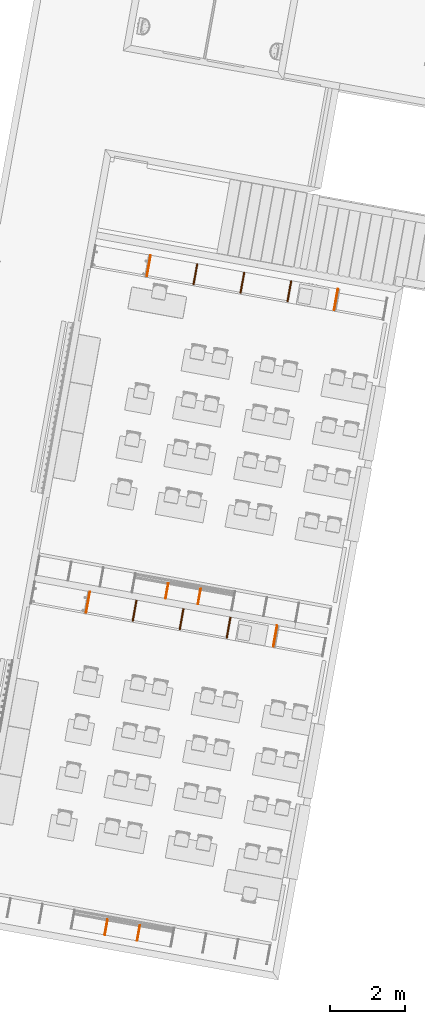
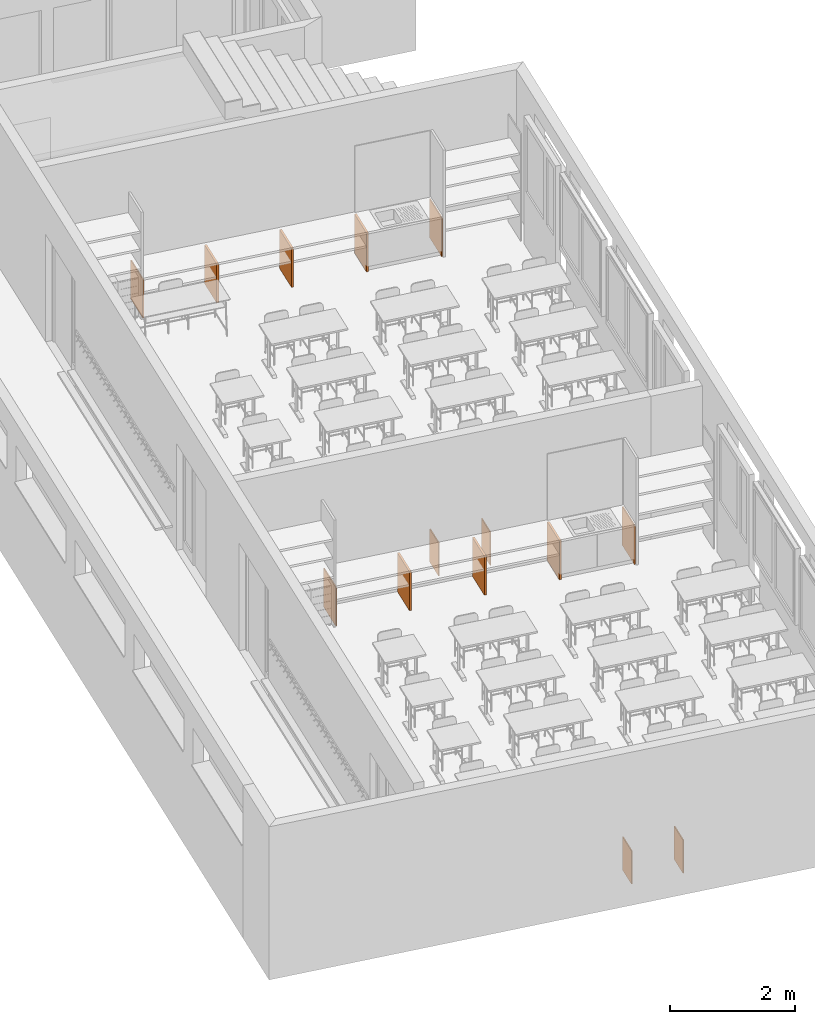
# One storey, part 51 of 79: 14 proxies.
"""IFC2X3 building model written with IfcOpenShell, lengths in metres."""

from ifc_helpers import new_model, entity, si_unit, converted_unit, derived_unit, money_unit, direction, frame, origin_with_axes, place, context, subcontext, project, spatial, polyline, outline, extrude, material, type_object, element, save


model = new_model("IFC2X3")

# Units and contexts
model_context = context("Model", 3, precision=1e-05, world=origin_with_axes(), true_north=direction((0.0, 1.0)))
body_context = subcontext(model_context, "Body", "Model", "MODEL_VIEW")
ifc_project = project(units=[si_unit("LENGTHUNIT", "METRE"), si_unit("AREAUNIT", "SQUARE_METRE"), si_unit("VOLUMEUNIT", "CUBIC_METRE"), converted_unit("PLANEANGLEUNIT", "DEGREE", entity("IfcPlaneAngleMeasure", 0.0174532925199), si_unit("PLANEANGLEUNIT", "RADIAN"), dimensions=[0, 0, 0, 0, 0, 0, 0]), money_unit("CHF"), converted_unit("TIMEUNIT", "Year", entity("IfcTimeMeasure", 31556926.0), si_unit("TIMEUNIT", "SECOND"), dimensions=[0, 0, 1, 0, 0, 0, 0]), si_unit("MASSUNIT", "GRAM", prefix="KILO"), si_unit("THERMODYNAMICTEMPERATUREUNIT", "DEGREE_CELSIUS"), si_unit("LUMINOUSINTENSITYUNIT", "LUMEN"), si_unit("ENERGYUNIT", "JOULE", prefix="MEGA"), derived_unit("THERMALCONDUCTANCEUNIT", [(si_unit("POWERUNIT", "WATT"), 1), (si_unit("LENGTHUNIT", "METRE"), -1), (si_unit("THERMODYNAMICTEMPERATUREUNIT", "KELVIN"), -1)]), derived_unit("SPECIFICHEATCAPACITYUNIT", [(si_unit("ENERGYUNIT", "JOULE"), 1), (si_unit("MASSUNIT", "GRAM", prefix="KILO"), -1), (si_unit("THERMODYNAMICTEMPERATUREUNIT", "KELVIN"), -1)]), derived_unit("MASSDENSITYUNIT", [(si_unit("MASSUNIT", "GRAM", prefix="KILO"), 1), (si_unit("VOLUMEUNIT", "CUBIC_METRE"), -1)])], contexts=[model_context])

# Site, building, storey
site_placement = place(None, frame((0.0, 0.0, 0.0), z_axis=(0.0, 0.0, 1.0), x_axis=(-0.177771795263, -0.984071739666, 0.0)))
site = spatial("IfcSite", under=ifc_project, at=site_placement, Name="Site", CompositionType="ELEMENT")
building_placement = place(site_placement, origin_with_axes())
building = spatial("IfcBuilding", under=site, at=building_placement, Name="Bâtiment", CompositionType="ELEMENT")
storey_placement = place(building_placement, origin_with_axes())
storey = spatial("IfcBuildingStorey", under=building, at=storey_placement, Name="RDC", CompositionType="ELEMENT", Elevation=0.0)

# Proxies
ifc_material = material(Name="_panneau mélaminé")
building_element_proxy_type_1 = type_object("IfcBuildingElementProxyType", Name="_panneau mélaminé 38", PredefinedType="NOTDEFINED")
for number, where, z_axis, x_axis, name in (
    (1, (156.26984114, -153.660193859, 0.0), (0.0, 0.0, 1.0), (-1.0, 0.0, 0.0), "raidiseur-fd-classe double"),
    (2, (156.26984114, -152.382193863, 0.0), (0.0, 0.0, 1.0), (-1.0, 0.0, 0.0), "raidiseur-fd-classe double"),
):
    element("IfcBuildingElementProxy", number, at=place(storey_placement, frame(where, z_axis=z_axis, x_axis=x_axis)), inside=storey, type_object=building_element_proxy_type_1, material=ifc_material, Name=name, context=body_context, shape_type="SweptSolid", body=[
        extrude(outline(polyline([(0.0, -0.019), (0.57, -0.019), (0.57, 0.019), (0.0, 0.019), (0.0, -0.019)])), origin_with_axes(), (0.0, 0.0, 1.0), 0.76),
    ])
proxy_1_placement = place(storey_placement, frame((156.269841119, -151.104151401, 0.0), z_axis=(0.0, 0.0, 1.0), x_axis=(-1.0, 0.0, 0.0)))
element("IfcBuildingElementProxy", 3, at=proxy_1_placement, inside=storey, type_object=building_element_proxy_type_1, material=ifc_material, Name="raidiseur-fd-classe double", context=body_context, shape_type="SweptSolid", body=[
    extrude(outline(polyline([(0.0, -0.019), (0.569999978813, -0.019), (0.569999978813, 0.019), (0.0, 0.019), (0.0, -0.019)])), origin_with_axes(), (0.0, 0.0, 1.0), 0.76),
])
proxy_2_placement = place(storey_placement, frame((147.119841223, -153.660193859, 0.0), z_axis=(0.0, 0.0, 1.0), x_axis=(-1.0, 0.0, 0.0)))
element("IfcBuildingElementProxy", 4, at=proxy_2_placement, inside=storey, type_object=building_element_proxy_type_1, material=ifc_material, Name="raidiseur-fd-classe double", context=body_context, shape_type="SweptSolid", body=[
    extrude(outline(polyline([(0.0, -0.019), (0.57, -0.019), (0.57, 0.019), (0.0, 0.019), (0.0, -0.019)])), origin_with_axes(), (0.0, 0.0, 1.0), 0.76),
])
proxy_3_placement = place(storey_placement, frame((147.119841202, -151.104151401, 0.0), z_axis=(0.0, 0.0, 1.0), x_axis=(-1.0, 0.0, 0.0)))
element("IfcBuildingElementProxy", 5, at=proxy_3_placement, inside=storey, type_object=building_element_proxy_type_1, material=ifc_material, Name="raidiseur-fd-classe double", context=body_context, shape_type="SweptSolid", body=[
    extrude(outline(polyline([(0.0, -0.019), (0.569999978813, -0.019), (0.569999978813, 0.019), (0.0, 0.019), (0.0, -0.019)])), origin_with_axes(), (0.0, 0.0, 1.0), 0.76),
])
proxy_4_placement = place(storey_placement, frame((147.119841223, -152.382193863, 0.0), z_axis=(0.0, 0.0, 1.0), x_axis=(-1.0, 0.0, 0.0)))
element("IfcBuildingElementProxy", 6, at=proxy_4_placement, inside=storey, type_object=building_element_proxy_type_1, material=ifc_material, Name="raidiseur-fd-classe double", context=body_context, shape_type="SweptSolid", body=[
    extrude(outline(polyline([(0.0, -0.019), (0.57, -0.019), (0.57, 0.019), (0.0, 0.019), (0.0, -0.019)])), origin_with_axes(), (0.0, 0.0, 1.0), 0.76),
])
building_element_proxy_type_2 = type_object("IfcBuildingElementProxyType", Name="_panneau mélaminé 19", PredefinedType="NOTDEFINED")
proxy_5_placement = place(storey_placement, frame((156.26984114, -149.845151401, 0.0), z_axis=(0.0, 0.0, 1.0), x_axis=(-1.0, 0.0, 0.0)))
element("IfcBuildingElementProxy", 7, at=proxy_5_placement, inside=storey, type_object=building_element_proxy_type_2, material=ifc_material, Name="raidiseur-fd-classe simple", context=body_context, shape_type="SweptSolid", body=[
    extrude(outline(polyline([(0.0, -0.019), (0.57, -0.019), (0.57, 0.0), (0.0, 0.0), (0.0, -0.019)])), origin_with_axes(), (0.0, 0.0, 1.0), 0.76),
])
for number, where, z_axis, x_axis, name in (
    (8, (155.099841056, -152.023051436, 0.0), (0.0, 0.0, 1.0), (1.0, 0.0, 0.0), "raidiseur-sous-tableau"),
    (9, (155.099841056, -152.903051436, 0.0), (0.0, 0.0, 1.0), (1.0, 0.0, 0.0), "raidiseur-sous-tableau"),
):
    element("IfcBuildingElementProxy", number, at=place(storey_placement, frame(where, z_axis=z_axis, x_axis=x_axis)), inside=storey, type_object=building_element_proxy_type_2, material=ifc_material, Name=name, context=body_context, shape_type="SweptSolid", body=[
        extrude(outline(polyline([(0.0, -0.0095), (0.420000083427, -0.0095), (0.420000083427, 0.0095), (0.0, 0.0095), (0.0, -0.0095)])), origin_with_axes(), (0.0, 0.0, 1.0), 0.65),
    ])
for number, where, z_axis, x_axis, name in (
    (10, (164.249841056, -152.903051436, 0.0), (0.0, 0.0, 1.0), (1.0, 0.0, 0.0), "raidiseur-sous-tableau"),
    (11, (164.249841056, -152.023051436, 0.0), (0.0, 0.0, 1.0), (1.0, 0.0, 0.0), "raidiseur-sous-tableau"),
):
    element("IfcBuildingElementProxy", number, at=place(storey_placement, frame(where, z_axis=z_axis, x_axis=x_axis)), inside=storey, type_object=building_element_proxy_type_2, material=ifc_material, Name=name, context=body_context, shape_type="SweptSolid", body=[
        extrude(outline(polyline([(0.0, -0.0095), (0.42, -0.0095), (0.42, 0.0095), (0.0, 0.0095), (0.0, -0.0095)])), origin_with_axes(), (0.0, 0.0, 1.0), 0.65),
    ])
proxy_6_placement = place(storey_placement, frame((156.26984114, -154.919236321, 0.0), z_axis=(0.0, 0.0, 1.0), x_axis=(-1.0, 0.0, 0.0)))
element("IfcBuildingElementProxy", 12, at=proxy_6_placement, inside=storey, type_object=building_element_proxy_type_2, material=ifc_material, Name="raidiseur-fd-classe simple", context=body_context, shape_type="SweptSolid", body=[
    extrude(outline(polyline([(0.0, 0.0), (0.570000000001, 0.0), (0.570000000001, 0.019), (0.0, 0.019), (0.0, 0.0)])), origin_with_axes(), (0.0, 0.0, 1.0), 0.76),
])
proxy_7_placement = place(storey_placement, frame((147.119841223, -149.845151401, 0.0), z_axis=(0.0, 0.0, 1.0), x_axis=(-1.0, 0.0, 0.0)))
element("IfcBuildingElementProxy", 13, at=proxy_7_placement, inside=storey, type_object=building_element_proxy_type_2, material=ifc_material, Name="raidiseur-fd-classe simple", context=body_context, shape_type="SweptSolid", body=[
    extrude(outline(polyline([(0.0, -0.019), (0.57, -0.019), (0.57, 0.0), (0.0, 0.0), (0.0, -0.019)])), origin_with_axes(), (0.0, 0.0, 1.0), 0.76),
])
proxy_8_placement = place(storey_placement, frame((147.119841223, -154.919236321, 0.0), z_axis=(0.0, 0.0, 1.0), x_axis=(-1.0, 0.0, 0.0)))
element("IfcBuildingElementProxy", 14, at=proxy_8_placement, inside=storey, type_object=building_element_proxy_type_2, material=ifc_material, Name="raidiseur-fd-classe simple", context=body_context, shape_type="SweptSolid", body=[
    extrude(outline(polyline([(0.0, 0.0), (0.570000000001, 0.0), (0.570000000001, 0.019), (0.0, 0.019), (0.0, 0.0)])), origin_with_axes(), (0.0, 0.0, 1.0), 0.76),
])

save(model, "model.ifc")
